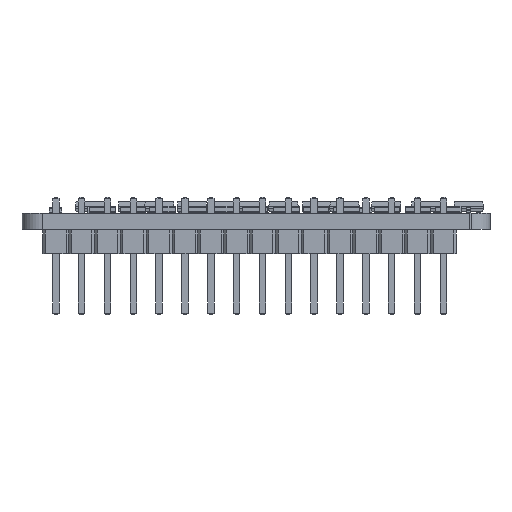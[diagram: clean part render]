
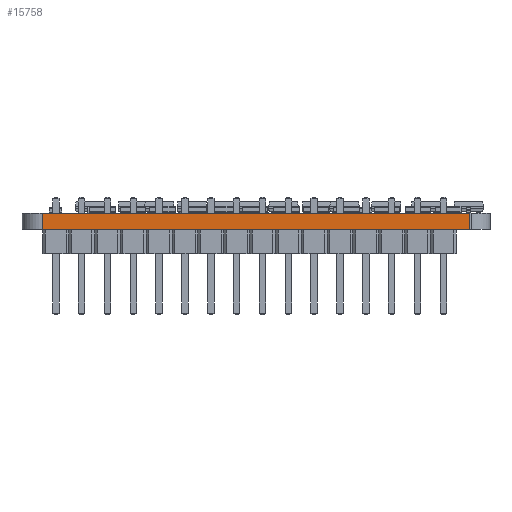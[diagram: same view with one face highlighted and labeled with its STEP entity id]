
A CAD part, left-side view. The second image highlights one B-rep face of the part: STEP entity #15758.
In plain terms, the highlighted planar face has unit normal (-1, 0, 0).
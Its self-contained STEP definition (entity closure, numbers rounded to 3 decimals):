
#14849 = VERTEX_POINT('',#14850);
#14850 = CARTESIAN_POINT('',(124.,-60.5,0.));
#14857 = EDGE_CURVE('',#14858,#14849,#14860,.T.);
#14858 = VERTEX_POINT('',#14859);
#14859 = CARTESIAN_POINT('',(124.,-102.5,0.));
#14860 = LINE('',#14861,#14862);
#14861 = CARTESIAN_POINT('',(124.,-102.5,0.));
#14862 = VECTOR('',#14863,1.);
#14863 = DIRECTION('',(0.,1.,0.));
#15277 = VERTEX_POINT('',#15278);
#15278 = CARTESIAN_POINT('',(124.,-60.5,1.6));
#15285 = EDGE_CURVE('',#15286,#15277,#15288,.T.);
#15286 = VERTEX_POINT('',#15287);
#15287 = CARTESIAN_POINT('',(124.,-102.5,1.6));
#15288 = LINE('',#15289,#15290);
#15289 = CARTESIAN_POINT('',(124.,-102.5,1.6));
#15290 = VECTOR('',#15291,1.);
#15291 = DIRECTION('',(0.,1.,0.));
#15728 = EDGE_CURVE('',#14849,#15277,#15729,.T.);
#15729 = LINE('',#15730,#15731);
#15730 = CARTESIAN_POINT('',(124.,-60.5,0.));
#15731 = VECTOR('',#15732,1.);
#15732 = DIRECTION('',(0.,0.,1.));
#15758 = ADVANCED_FACE('',(#15759),#15770,.T.);
#15759 = FACE_BOUND('',#15760,.T.);
#15760 = EDGE_LOOP('',(#15761,#15767,#15768,#15769));
#15761 = ORIENTED_EDGE('',*,*,#15762,.T.);
#15762 = EDGE_CURVE('',#14858,#15286,#15763,.T.);
#15763 = LINE('',#15764,#15765);
#15764 = CARTESIAN_POINT('',(124.,-102.5,0.));
#15765 = VECTOR('',#15766,1.);
#15766 = DIRECTION('',(0.,0.,1.));
#15767 = ORIENTED_EDGE('',*,*,#15285,.T.);
#15768 = ORIENTED_EDGE('',*,*,#15728,.F.);
#15769 = ORIENTED_EDGE('',*,*,#14857,.F.);
#15770 = PLANE('',#15771);
#15771 = AXIS2_PLACEMENT_3D('',#15772,#15773,#15774);
#15772 = CARTESIAN_POINT('',(124.,-102.5,0.));
#15773 = DIRECTION('',(-1.,0.,0.));
#15774 = DIRECTION('',(0.,1.,0.));
